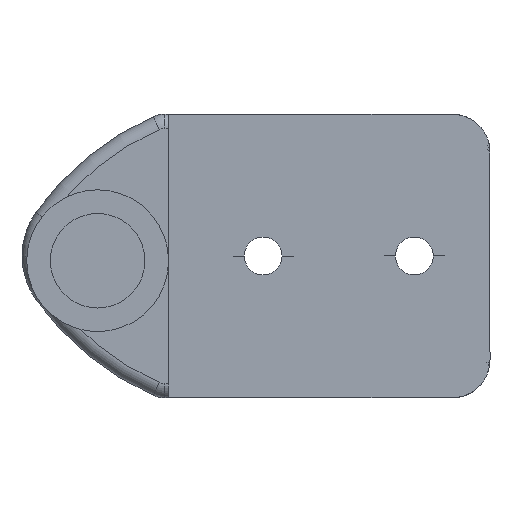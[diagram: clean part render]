
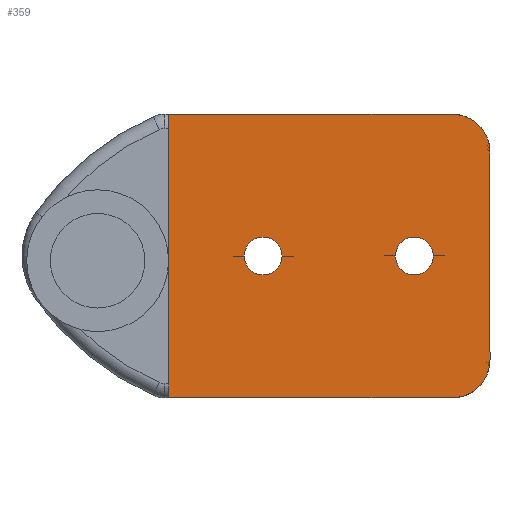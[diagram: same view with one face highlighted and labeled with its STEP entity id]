
A CAD part, front view. The second image highlights one B-rep face of the part: STEP entity #359.
In plain terms, the highlighted planar face has unit normal (0, -1, 0).
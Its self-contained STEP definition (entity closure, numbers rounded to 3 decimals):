
#8 = AXIS2_PLACEMENT_3D ( 'NONE', #2179, #2178, #2176 ) ;
#13 = AXIS2_PLACEMENT_3D ( 'NONE', #2850, #2849, #2847 ) ;
#14 = AXIS2_PLACEMENT_3D ( 'NONE', #2806, #2782, #2781 ) ;
#67 = AXIS2_PLACEMENT_3D ( 'NONE', #2642, #2641, #2640 ) ;
#68 = AXIS2_PLACEMENT_3D ( 'NONE', #2661, #2660, #2659 ) ;
#87 = EDGE_CURVE ( 'NONE', #2821, #2836, #3454, .T. ) ;
#90 = EDGE_CURVE ( 'NONE', #2836, #2817, #3452, .T. ) ;
#93 = EDGE_CURVE ( 'NONE', #2817, #2864, #3445, .T. ) ;
#101 = EDGE_CURVE ( 'NONE', #2864, #2872, #3439, .T. ) ;
#105 = EDGE_CURVE ( 'NONE', #2809, #2821, #3431, .T. ) ;
#151 = EDGE_CURVE ( 'NONE', #2872, #2809, #3365, .T. ) ;
#154 = EDGE_CURVE ( 'NONE', #2762, #2761, #3361, .T. ) ;
#155 = EDGE_CURVE ( 'NONE', #2787, #2786, #3360, .T. ) ;
#257 = EDGE_CURVE ( 'NONE', #2786, #2787, #3272, .T. ) ;
#271 = EDGE_CURVE ( 'NONE', #2761, #2762, #3255, .T. ) ;
#359 = ADVANCED_FACE ( 'NONE', ( #3080, #3078, #3075 ), #459, .T. ) ;
#456 = DIRECTION ( 'NONE',  ( -1., 0., 0. ) ) ;
#457 = DIRECTION ( 'NONE',  ( 0., -1., 0. ) ) ;
#458 = CARTESIAN_POINT ( 'NONE',  ( 37.5, 397., -10.5 ) ) ;
#459 = PLANE ( 'NONE',  #2929 ) ;
#2129 = DIRECTION ( 'NONE',  ( -1., 0., 0. ) ) ;
#2131 = DIRECTION ( 'NONE',  ( 0., 1., 0. ) ) ;
#2132 = CARTESIAN_POINT ( 'NONE',  ( 17.5, 397., 0.5 ) ) ;
#2176 = DIRECTION ( 'NONE',  ( -1., 0., 0. ) ) ;
#2178 = DIRECTION ( 'NONE',  ( 0., 1., 0. ) ) ;
#2179 = CARTESIAN_POINT ( 'NONE',  ( 33.5, 397., 0.5 ) ) ;
#2582 = DIRECTION ( 'NONE',  ( 1., 0., 0. ) ) ;
#2583 = CARTESIAN_POINT ( 'NONE',  ( 37.5, 397., 15.5 ) ) ;
#2593 = DIRECTION ( 'NONE',  ( -1., 0., 0. ) ) ;
#2595 = CARTESIAN_POINT ( 'NONE',  ( 7.5, 397., -14.5 ) ) ;
#2640 = DIRECTION ( 'NONE',  ( -1., 0., 0. ) ) ;
#2641 = DIRECTION ( 'NONE',  ( 0., 1., 0. ) ) ;
#2642 = CARTESIAN_POINT ( 'NONE',  ( 37.5, 397., -10.5 ) ) ;
#2648 = DIRECTION ( 'NONE',  ( 0., 0., -1. ) ) ;
#2649 = CARTESIAN_POINT ( 'NONE',  ( 41.5, 397., -10.5 ) ) ;
#2659 = DIRECTION ( 'NONE',  ( -1., 0., 0. ) ) ;
#2660 = DIRECTION ( 'NONE',  ( 0., 1., 0. ) ) ;
#2661 = CARTESIAN_POINT ( 'NONE',  ( 37.5, 397., 11.5 ) ) ;
#2761 = VERTEX_POINT ( 'NONE', #4075 ) ;
#2762 = VERTEX_POINT ( 'NONE', #4074 ) ;
#2763 = DIRECTION ( 'NONE',  ( 0., 0., 1. ) ) ;
#2766 = CARTESIAN_POINT ( 'NONE',  ( 7.5, 397., 15.5 ) ) ;
#2781 = DIRECTION ( 'NONE',  ( -1., 0., 0. ) ) ;
#2782 = DIRECTION ( 'NONE',  ( 0., 1., 0. ) ) ;
#2786 = VERTEX_POINT ( 'NONE', #4056 ) ;
#2787 = VERTEX_POINT ( 'NONE', #4055 ) ;
#2806 = CARTESIAN_POINT ( 'NONE',  ( 17.5, 397., 0.5 ) ) ;
#2809 = VERTEX_POINT ( 'NONE', #4040 ) ;
#2817 = VERTEX_POINT ( 'NONE', #4033 ) ;
#2821 = VERTEX_POINT ( 'NONE', #4029 ) ;
#2836 = VERTEX_POINT ( 'NONE', #4017 ) ;
#2847 = DIRECTION ( 'NONE',  ( -1., 0., 0. ) ) ;
#2849 = DIRECTION ( 'NONE',  ( 0., 1., 0. ) ) ;
#2850 = CARTESIAN_POINT ( 'NONE',  ( 33.5, 397., 0.5 ) ) ;
#2864 = VERTEX_POINT ( 'NONE', #3993 ) ;
#2872 = VERTEX_POINT ( 'NONE', #3986 ) ;
#2929 = AXIS2_PLACEMENT_3D ( 'NONE', #458, #457, #456 ) ;
#2994 = AXIS2_PLACEMENT_3D ( 'NONE', #2132, #2131, #2129 ) ;
#3075 = FACE_OUTER_BOUND ( 'NONE', #3518, .T. ) ;
#3078 = FACE_BOUND ( 'NONE', #3521, .T. ) ;
#3080 = FACE_BOUND ( 'NONE', #3523, .T. ) ;
#3255 = CIRCLE ( 'NONE', #2994, 2. ) ;
#3272 = CIRCLE ( 'NONE', #8, 2. ) ;
#3360 = CIRCLE ( 'NONE', #13, 2. ) ;
#3361 = CIRCLE ( 'NONE', #14, 2. ) ;
#3364 = VECTOR ( 'NONE', #2763, 1000. ) ;
#3365 = LINE ( 'NONE', #2766, #3364 ) ;
#3430 = VECTOR ( 'NONE', #2582, 1000. ) ;
#3431 = LINE ( 'NONE', #2583, #3430 ) ;
#3438 = VECTOR ( 'NONE', #2593, 1000. ) ;
#3439 = LINE ( 'NONE', #2595, #3438 ) ;
#3445 = CIRCLE ( 'NONE', #67, 4. ) ;
#3451 = VECTOR ( 'NONE', #2648, 1000. ) ;
#3452 = LINE ( 'NONE', #2649, #3451 ) ;
#3454 = CIRCLE ( 'NONE', #68, 4. ) ;
#3518 = EDGE_LOOP ( 'NONE', ( #3739, #3740, #3741, #3742, #3743, #3744 ) ) ;
#3521 = EDGE_LOOP ( 'NONE', ( #3737, #3738 ) ) ;
#3523 = EDGE_LOOP ( 'NONE', ( #3735, #3736 ) ) ;
#3735 = ORIENTED_EDGE ( 'NONE', *, *, #154, .T. ) ;
#3736 = ORIENTED_EDGE ( 'NONE', *, *, #271, .T. ) ;
#3737 = ORIENTED_EDGE ( 'NONE', *, *, #155, .T. ) ;
#3738 = ORIENTED_EDGE ( 'NONE', *, *, #257, .T. ) ;
#3739 = ORIENTED_EDGE ( 'NONE', *, *, #105, .F. ) ;
#3740 = ORIENTED_EDGE ( 'NONE', *, *, #151, .F. ) ;
#3741 = ORIENTED_EDGE ( 'NONE', *, *, #101, .F. ) ;
#3742 = ORIENTED_EDGE ( 'NONE', *, *, #93, .F. ) ;
#3743 = ORIENTED_EDGE ( 'NONE', *, *, #90, .F. ) ;
#3744 = ORIENTED_EDGE ( 'NONE', *, *, #87, .F. ) ;
#3986 = CARTESIAN_POINT ( 'NONE',  ( 7.5, 397., -14.5 ) ) ;
#3993 = CARTESIAN_POINT ( 'NONE',  ( 37.5, 397., -14.5 ) ) ;
#4017 = CARTESIAN_POINT ( 'NONE',  ( 41.5, 397., 11.5 ) ) ;
#4029 = CARTESIAN_POINT ( 'NONE',  ( 37.5, 397., 15.5 ) ) ;
#4033 = CARTESIAN_POINT ( 'NONE',  ( 41.5, 397., -10.5 ) ) ;
#4040 = CARTESIAN_POINT ( 'NONE',  ( 7.5, 397., 15.5 ) ) ;
#4055 = CARTESIAN_POINT ( 'NONE',  ( 35.5, 397., 0.5 ) ) ;
#4056 = CARTESIAN_POINT ( 'NONE',  ( 31.5, 397., 0.5 ) ) ;
#4074 = CARTESIAN_POINT ( 'NONE',  ( 19.5, 397., 0.5 ) ) ;
#4075 = CARTESIAN_POINT ( 'NONE',  ( 15.5, 397., 0.5 ) ) ;
